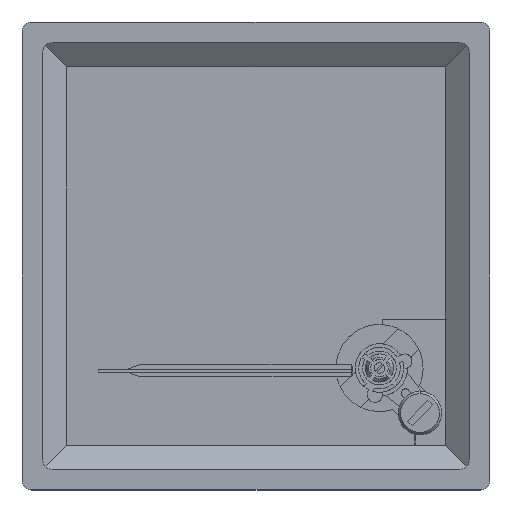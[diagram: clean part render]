
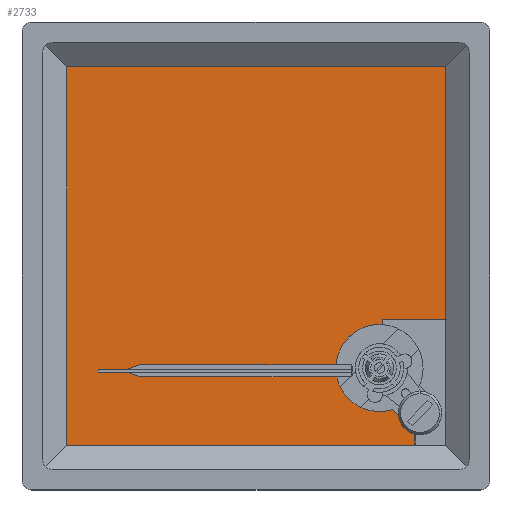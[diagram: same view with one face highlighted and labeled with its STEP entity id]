
A CAD part, top view. The second image highlights one B-rep face of the part: STEP entity #2733.
In plain terms, the highlighted planar face has unit normal (0, 0, 1).
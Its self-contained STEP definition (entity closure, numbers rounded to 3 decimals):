
#28 = VECTOR ( 'NONE', #10821, 1000. ) ;
#107 = CARTESIAN_POINT ( 'NONE',  ( 18.397, 56.373, 24.5 ) ) ;
#245 = DIRECTION ( 'NONE',  ( 0., 1., 0. ) ) ;
#438 = ORIENTED_EDGE ( 'NONE', *, *, #11661, .T. ) ;
#469 = ORIENTED_EDGE ( 'NONE', *, *, #6571, .T. ) ;
#829 = CARTESIAN_POINT ( 'NONE',  ( 18.397, 4.373, 24.5 ) ) ;
#1028 = VECTOR ( 'NONE', #7441, 1000. ) ;
#1035 = VECTOR ( 'NONE', #245, 1000. ) ;
#1056 = CARTESIAN_POINT ( 'NONE',  ( 12.097, -18.558, 24.5 ) ) ;
#1546 = ORIENTED_EDGE ( 'NONE', *, *, #13550, .T. ) ;
#1589 = AXIS2_PLACEMENT_3D ( 'NONE', #5413, #2367, #12433 ) ;
#2114 = EDGE_CURVE ( 'NONE', #13724, #15213, #12299, .T. ) ;
#2217 = LINE ( 'NONE', #12514, #13255 ) ;
#2358 = CARTESIAN_POINT ( 'NONE',  ( 4.866, -5.719, 24.5 ) ) ;
#2367 = DIRECTION ( 'NONE',  ( 0., 0., -1. ) ) ;
#2530 = EDGE_CURVE ( 'NONE', #9490, #4844, #10328, .T. ) ;
#2733 = ADVANCED_FACE ( 'NONE', ( #17600 ), #4114, .T. ) ;
#2752 = DIRECTION ( 'NONE',  ( 0., 0., 1. ) ) ;
#2789 = VECTOR ( 'NONE', #14722, 1000. ) ;
#3235 = CARTESIAN_POINT ( 'NONE',  ( 5.397, 4.373, 24.5 ) ) ;
#3329 = EDGE_CURVE ( 'NONE', #9713, #8873, #6748, .T. ) ;
#3538 = AXIS2_PLACEMENT_3D ( 'NONE', #2358, #5217, #15087 ) ;
#3713 = CARTESIAN_POINT ( 'NONE',  ( -59.603, -21.627, 24.5 ) ) ;
#3764 = ORIENTED_EDGE ( 'NONE', *, *, #16243, .T. ) ;
#3986 = LINE ( 'NONE', #16473, #28 ) ;
#4114 = PLANE ( 'NONE',  #14424 ) ;
#4117 = CARTESIAN_POINT ( 'NONE',  ( 12.097, -21.627, 24.5 ) ) ;
#4242 = CARTESIAN_POINT ( 'NONE',  ( -80.715, 7.672, 24.5 ) ) ;
#4500 = CARTESIAN_POINT ( 'NONE',  ( 7.583, -14.283, 24.5 ) ) ;
#4591 = ORIENTED_EDGE ( 'NONE', *, *, #2530, .T. ) ;
#4763 = LINE ( 'NONE', #7700, #5214 ) ;
#4844 = VERTEX_POINT ( 'NONE', #4117 ) ;
#4861 = CARTESIAN_POINT ( 'NONE',  ( -80.715, -21.627, 24.5 ) ) ;
#5214 = VECTOR ( 'NONE', #9205, 1000. ) ;
#5217 = DIRECTION ( 'NONE',  ( 0., 0., -1. ) ) ;
#5380 = DIRECTION ( 'NONE',  ( 0., -1., 0. ) ) ;
#5413 = CARTESIAN_POINT ( 'NONE',  ( 13.223, -15.033, 24.5 ) ) ;
#5422 = LINE ( 'NONE', #7519, #1035 ) ;
#6209 = VERTEX_POINT ( 'NONE', #15294 ) ;
#6571 = EDGE_CURVE ( 'NONE', #10894, #9713, #3986, .T. ) ;
#6748 = LINE ( 'NONE', #10274, #1028 ) ;
#6991 = CARTESIAN_POINT ( 'NONE',  ( -59.603, 7.672, 24.5 ) ) ;
#7040 = ORIENTED_EDGE ( 'NONE', *, *, #3329, .T. ) ;
#7441 = DIRECTION ( 'NONE',  ( -1., 0., 0. ) ) ;
#7519 = CARTESIAN_POINT ( 'NONE',  ( 12.097, 7.672, 24.5 ) ) ;
#7700 = CARTESIAN_POINT ( 'NONE',  ( 10.468, -17.502, 24.5 ) ) ;
#8039 = EDGE_CURVE ( 'NONE', #12848, #10894, #11669, .T. ) ;
#8468 = LINE ( 'NONE', #6991, #11779 ) ;
#8873 = VERTEX_POINT ( 'NONE', #17511 ) ;
#9205 = DIRECTION ( 'NONE',  ( -0.667, 0.745, 0. ) ) ;
#9490 = VERTEX_POINT ( 'NONE', #3713 ) ;
#9713 = VERTEX_POINT ( 'NONE', #107 ) ;
#9936 = DIRECTION ( 'NONE',  ( 1., 0., 0. ) ) ;
#10088 = VERTEX_POINT ( 'NONE', #1056 ) ;
#10274 = CARTESIAN_POINT ( 'NONE',  ( -80.715, 56.373, 24.5 ) ) ;
#10328 = LINE ( 'NONE', #4861, #2789 ) ;
#10725 = ORIENTED_EDGE ( 'NONE', *, *, #2114, .T. ) ;
#10821 = DIRECTION ( 'NONE',  ( 0., 1., 0. ) ) ;
#10894 = VERTEX_POINT ( 'NONE', #829 ) ;
#11588 = EDGE_CURVE ( 'NONE', #4844, #10088, #5422, .T. ) ;
#11661 = EDGE_CURVE ( 'NONE', #6209, #13724, #4763, .T. ) ;
#11669 = LINE ( 'NONE', #15489, #14499 ) ;
#11779 = VECTOR ( 'NONE', #5380, 1000. ) ;
#12220 = ORIENTED_EDGE ( 'NONE', *, *, #8039, .T. ) ;
#12229 = CARTESIAN_POINT ( 'NONE',  ( 5.397, 3.25, 24.5 ) ) ;
#12299 = CIRCLE ( 'NONE', #3538, 8.984 ) ;
#12433 = DIRECTION ( 'NONE',  ( 1., 0., 0. ) ) ;
#12514 = CARTESIAN_POINT ( 'NONE',  ( 5.397, 7.672, 24.5 ) ) ;
#12848 = VERTEX_POINT ( 'NONE', #3235 ) ;
#13255 = VECTOR ( 'NONE', #14124, 1000. ) ;
#13550 = EDGE_CURVE ( 'NONE', #8873, #9490, #8468, .T. ) ;
#13724 = VERTEX_POINT ( 'NONE', #4500 ) ;
#14124 = DIRECTION ( 'NONE',  ( 0., 1., 0. ) ) ;
#14424 = AXIS2_PLACEMENT_3D ( 'NONE', #4242, #2752, #15464 ) ;
#14499 = VECTOR ( 'NONE', #9936, 1000. ) ;
#14722 = DIRECTION ( 'NONE',  ( 1., 0., 0. ) ) ;
#14787 = CIRCLE ( 'NONE', #1589, 3.7 ) ;
#15087 = DIRECTION ( 'NONE',  ( 1., 0., 0. ) ) ;
#15213 = VERTEX_POINT ( 'NONE', #12229 ) ;
#15294 = CARTESIAN_POINT ( 'NONE',  ( 10.468, -17.502, 24.5 ) ) ;
#15371 = EDGE_CURVE ( 'NONE', #15213, #12848, #2217, .T. ) ;
#15464 = DIRECTION ( 'NONE',  ( 1., 0., 0. ) ) ;
#15489 = CARTESIAN_POINT ( 'NONE',  ( -80.715, 4.373, 24.5 ) ) ;
#15950 = ORIENTED_EDGE ( 'NONE', *, *, #15371, .T. ) ;
#16243 = EDGE_CURVE ( 'NONE', #10088, #6209, #14787, .T. ) ;
#16473 = CARTESIAN_POINT ( 'NONE',  ( 18.397, 7.672, 24.5 ) ) ;
#16745 = ORIENTED_EDGE ( 'NONE', *, *, #11588, .T. ) ;
#17511 = CARTESIAN_POINT ( 'NONE',  ( -59.603, 56.373, 24.5 ) ) ;
#17600 = FACE_OUTER_BOUND ( 'NONE', #18131, .T. ) ;
#18131 = EDGE_LOOP ( 'NONE', ( #16745, #3764, #438, #10725, #15950, #12220, #469, #7040, #1546, #4591 ) ) ;
